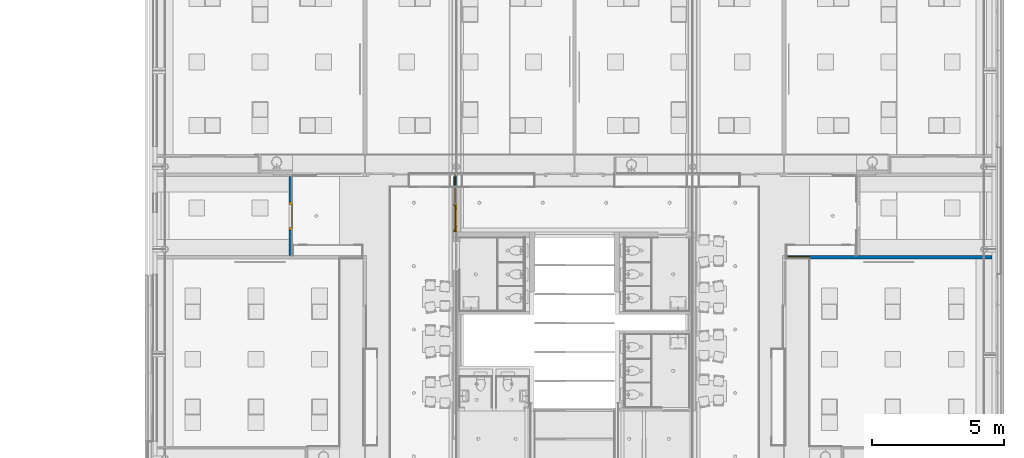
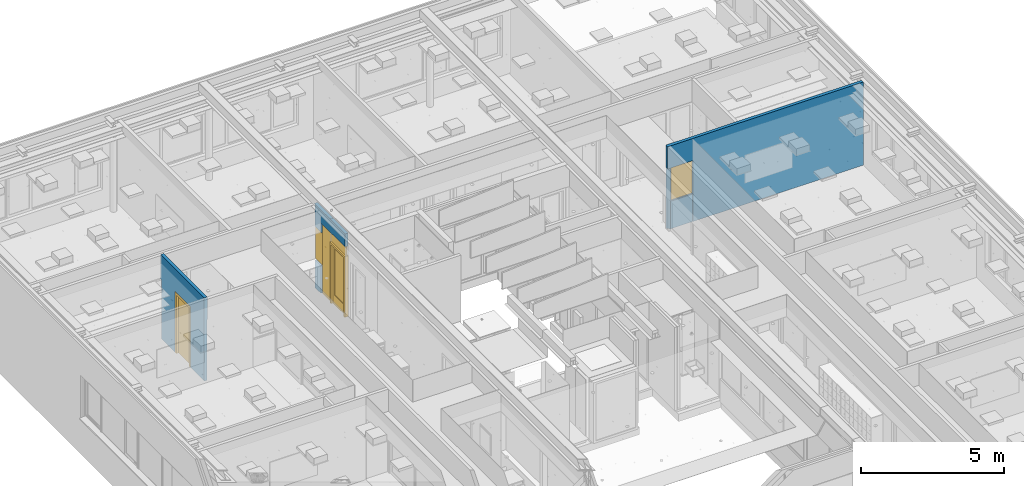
# One storey, part 33 of 260: 4 windows, 3 walls, 2 doors, 6 openings.
"""IFC2X3 building model written with IfcOpenShell, lengths in millimetres."""

from ifc_helpers import new_model, entity, si_unit, converted_unit, derived_unit, money_unit, direction, frame, origin_with_axes, place, context, subcontext, project, spatial, open_shell, faceted_brep, surface_model, source, transform, mapped, material, type_object, type_shapes, element, fill, save


model = new_model("IFC2X3")

# Units and contexts
model_context = context("Model", 3, precision=0.01, world=origin_with_axes(), true_north=direction((0.0, 1.0)))
plan_context = context("Plan", 3, precision=0.01, world=origin_with_axes(), true_north=direction((0.0, 1.0)))
body_context = subcontext(model_context, "Body", "Model", "MODEL_VIEW")
ifc_project = project(units=[si_unit("LENGTHUNIT", "METRE", prefix="MILLI"), si_unit("AREAUNIT", "SQUARE_METRE"), si_unit("VOLUMEUNIT", "CUBIC_METRE"), converted_unit("PLANEANGLEUNIT", "DEGREE", entity("IfcPlaneAngleMeasure", 0.0174532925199), si_unit("PLANEANGLEUNIT", "RADIAN"), dimensions=[0, 0, 0, 0, 0, 0, 0]), money_unit("EUR"), converted_unit("TIMEUNIT", "Year", entity("IfcTimeMeasure", 31556926.0), si_unit("TIMEUNIT", "SECOND"), dimensions=[0, 0, 1, 0, 0, 0, 0]), si_unit("MASSUNIT", "GRAM", prefix="KILO"), si_unit("THERMODYNAMICTEMPERATUREUNIT", "DEGREE_CELSIUS"), si_unit("LUMINOUSINTENSITYUNIT", "LUMEN"), si_unit("ENERGYUNIT", "JOULE", prefix="MEGA"), derived_unit("THERMALCONDUCTANCEUNIT", [(si_unit("POWERUNIT", "WATT"), 1), (si_unit("LENGTHUNIT", "METRE"), -1), (si_unit("THERMODYNAMICTEMPERATUREUNIT", "KELVIN"), -1)]), derived_unit("SPECIFICHEATCAPACITYUNIT", [(si_unit("ENERGYUNIT", "JOULE"), 1), (si_unit("MASSUNIT", "GRAM", prefix="KILO"), -1), (si_unit("THERMODYNAMICTEMPERATUREUNIT", "KELVIN"), -1)]), derived_unit("MASSDENSITYUNIT", [(si_unit("MASSUNIT", "GRAM", prefix="KILO"), 1), (si_unit("VOLUMEUNIT", "CUBIC_METRE"), -1)])], contexts=[model_context, plan_context])

# Site, building, storey
site_placement = place(None, origin_with_axes())
site = spatial("IfcSite", under=ifc_project, at=site_placement, Name="Site", CompositionType="ELEMENT")
building_placement = place(site_placement, origin_with_axes())
building = spatial("IfcBuilding", under=site, at=building_placement, Name="Naam gebouw", CompositionType="ELEMENT")
storey_placement = place(building_placement, frame((0.0, 0.0, 3960.0), z_axis=(0.0, 0.0, 1.0), x_axis=(1.0, 0.0, 0.0)))
storey = spatial("IfcBuildingStorey", under=building, at=storey_placement, Name="verdieping", CompositionType="ELEMENT", Elevation=3960.0)

# Wall, openings, windows, door
ifc_material = material(Name="ALG - LICHTE SCHEIDINGSWAND")
wall_type = type_object("IfcWallType", Name="ALG LSW 125 125", PredefinedType="NOTDEFINED")
wall_1_placement = place(storey_placement, frame((35495.0, 36862.5, 0.0), z_axis=(0.0, 0.0, 1.0), x_axis=(0.0, 1.0, 0.0)))
wall_1 = element("IfcWall", 1, at=wall_1_placement, inside=storey, type_object=wall_type, material=ifc_material, Name="22_GF 125 ECO DGS/2.75.2A", context=body_context, shape_type="Brep", body=[
    faceted_brep([(2100.0, -72.5, 1200.0), (2100.0, -72.5, 1178.0), (2100.0, -125.0, 1178.0), (2100.0, -125.0, 0.0), (2100.0, 0.0, 0.0), (2100.0, 0.0, 1178.0), (2100.0, -52.5, 1178.0), (2100.0, -52.5, 1200.0), (1700.0, -72.5, 1178.0), (1682.0, -72.5, 1200.0), (1682.0, -72.5, 1178.0), (1700.0, -125.0, 1178.0), (1700.0, -125.0, 0.0), (1700.0, 0.0, 0.0), (1700.0, 0.0, 1178.0), (1700.0, -52.5, 1178.0), (1682.0, -52.5, 1178.0), (1682.0, -52.5, 1200.0)], [[[0, 1, 2, 3, 4, 5, 6, 7]], [[8, 1, 0, 9, 10]], [[8, 11, 2, 1]], [[3, 2, 11, 12]], [[3, 12, 13, 4]], [[4, 13, 14, 5]], [[5, 14, 15, 6]], [[15, 16, 17, 7, 6]], [[0, 7, 17, 9]], [[17, 16, 10, 9]], [[8, 10, 16, 15]], [[14, 13, 12, 11, 8, 15]]]),
    faceted_brep([(1700.0, 0.0, 2600.0), (1700.0, -125.0, 2600.0), (1682.0, -125.0, 2600.0), (1682.0, 0.0, 2600.0), (1700.0, 0.0, 2612.0), (1700.0, -125.0, 2612.0), (2100.0, -125.0, 2612.0), (2100.0, -125.0, 3560.00001386), (2162.5, -125.0, 3560.00002563), (2162.5, -125.0, 3570.00005948), (0.0, -125.0, 3570.00005948), (0.0, -125.0, 3012.0), (1700.0, -125.0, 3012.0), (1700.0, -125.0, 3000.0), (1682.0, -125.0, 3000.0), (1682.0, 0.0, 3000.0), (0.0, 0.0, 3012.0), (0.0, 0.0, 3570.00005948), (2162.5, 0.0, 3570.00005948), (2162.5, 0.0, 3560.00002563), (2100.0, 0.0, 3560.00001378), (2100.0, 0.0, 2612.0), (1700.0, 0.0, 3000.0), (1700.0, 0.0, 3012.0), (1050.0, -22.5, 3570.00005948), (1065.0, -22.5, 3570.00005948), (1065.0, -102.5, 3570.00005948), (1050.0, -102.5, 3570.00005948), (1050.0, -22.5, 3012.0), (1050.0, -102.5, 3012.0), (1065.0, -102.5, 3012.0), (1065.0, -22.5, 3012.0)], [[[0, 1, 2, 3]], [[4, 5, 1, 0]], [[5, 6, 7, 8, 9, 10, 11, 12, 13, 14, 2, 1]], [[2, 14, 15, 3]], [[16, 17, 18, 19, 20, 21, 4, 0, 3, 15, 22, 23]], [[4, 21, 6, 5]], [[7, 6, 21, 20]], [[7, 20, 19, 8]], [[18, 9, 8, 19]], [[18, 17, 10, 9], [24, 25, 26, 27]], [[17, 16, 11, 10]], [[23, 12, 11, 16], [28, 29, 30, 31]], [[22, 13, 12, 23]], [[22, 15, 14, 13]], [[25, 24, 28, 31]], [[26, 25, 31, 30]], [[27, 26, 30, 29]], [[24, 27, 29, 28]]]),
])
opening_1_placement = place(wall_1_placement, frame((1373.0, 0.0, 0.0), z_axis=(0.0, 0.0, 1.0), x_axis=(1.0, 0.0, 0.0)))
opening_1 = element("IfcOpeningElement", 2, at=opening_1_placement, cuts=wall_1, Name="31_12.04", context=body_context, shape_type="Brep", body=[
    faceted_brep([(309.0, -72.5, 3000.0), (309.0, -72.5, 0.0), (309.0, 125.0, 0.0), (309.0, 125.0, 3000.0), (-309.0, -72.5, 3000.0), (-309.0, -72.5, 0.0), (-309.0, 125.0, 0.0), (-309.0, 125.0, 3000.0)], [[[0, 1, 2, 3]], [[0, 4, 5, 1]], [[1, 5, 6, 2]], [[3, 2, 6, 7]], [[4, 0, 3, 7]], [[5, 4, 7, 6]]]),
    faceted_brep([(309.0, -72.5, 0.0), (309.0, -72.5, 3000.0), (309.0, -250.0, 3000.0), (309.0, -250.0, 0.0), (-309.0, -72.5, 0.0), (-309.0, -72.5, 3000.0), (-309.0, -250.0, 3000.0), (-309.0, -250.0, 0.0)], [[[0, 1, 2, 3]], [[0, 4, 5, 1]], [[1, 5, 6, 2]], [[3, 2, 6, 7]], [[4, 0, 3, 7]], [[5, 4, 7, 6]]]),
])
opening_2_placement = place(wall_1_placement, frame((1917.25, 0.0, 1200.0), z_axis=(0.0, 0.0, 1.0), x_axis=(1.0, 0.0, 0.0)))
opening_2 = element("IfcOpeningElement", 3, at=opening_2_placement, cuts=wall_1, Name="31_11.12", context=body_context, shape_type="Brep", body=[
    faceted_brep([(235.25, -72.5, 1400.0), (235.25, -72.5, 0.0), (235.25, 125.0, 0.0), (235.25, 125.0, 1400.0), (-235.25, -72.5, 1400.0), (-235.25, -72.5, 0.0), (-235.25, 125.0, 0.0), (-235.25, 125.0, 1400.0)], [[[0, 1, 2, 3]], [[0, 4, 5, 1]], [[1, 5, 6, 2]], [[3, 2, 6, 7]], [[4, 0, 3, 7]], [[5, 4, 7, 6]]]),
    faceted_brep([(235.25, -72.5, 0.0), (235.25, -72.5, 1400.0), (235.25, -250.0, 1400.0), (235.25, -250.0, 0.0), (-235.25, -72.5, 0.0), (-235.25, -72.5, 1400.0), (-235.25, -250.0, 1400.0), (-235.25, -250.0, 0.0)], [[[0, 1, 2, 3]], [[0, 4, 5, 1]], [[1, 5, 6, 2]], [[3, 2, 6, 7]], [[4, 0, 3, 7]], [[5, 4, 7, 6]]]),
])
opening_3_placement = place(wall_1_placement, frame((532.0, 0.0, 2600.0), z_axis=(0.0, 0.0, 1.0), x_axis=(1.0, 0.0, 0.0)))
opening_3 = element("IfcOpeningElement", 4, at=opening_3_placement, cuts=wall_1, Name="31_12.03", context=body_context, shape_type="Brep", body=[
    faceted_brep([(532.0, -72.5, 400.0), (532.0, -72.5, 0.0), (532.0, 125.0, 0.0), (532.0, 125.0, 400.0), (-532.0, -72.5, 400.0), (-532.0, -72.5, 0.0), (-532.0, 125.0, 0.0), (-532.0, 125.0, 400.0)], [[[0, 1, 2, 3]], [[0, 4, 5, 1]], [[1, 5, 6, 2]], [[3, 2, 6, 7]], [[4, 0, 3, 7]], [[5, 4, 7, 6]]]),
    faceted_brep([(532.0, -72.5, 0.0), (532.0, -72.5, 400.0), (532.0, -250.0, 400.0), (532.0, -250.0, 0.0), (-532.0, -72.5, 0.0), (-532.0, -72.5, 400.0), (-532.0, -250.0, 400.0), (-532.0, -250.0, 0.0)], [[[0, 1, 2, 3]], [[0, 4, 5, 1]], [[1, 5, 6, 2]], [[3, 2, 6, 7]], [[4, 0, 3, 7]], [[5, 4, 7, 6]]]),
])
opening_4_placement = place(wall_1_placement, frame((532.0, 0.0, 0.0), z_axis=(0.0, 0.0, 1.0), x_axis=(1.0, 0.0, 0.0)))
opening_4 = element("IfcOpeningElement", 5, at=opening_4_placement, cuts=wall_1, Name="32_02.01", context=body_context, shape_type="Brep", body=[
    faceted_brep([(-532.0, -125.0, 0.0), (-532.0, -125.0, 2600.0), (-532.0, 257.0, 2600.0), (-532.0, 257.0, 0.0), (532.0, -125.0, 0.0), (532.0, -125.0, 2600.0), (532.0, 257.0, 2600.0), (532.0, 257.0, 0.0)], [[[0, 1, 2, 3]], [[0, 4, 5, 1]], [[1, 5, 6, 2]], [[3, 2, 6, 7]], [[4, 0, 3, 7]], [[5, 4, 7, 6]]]),
])
window_style = type_object("IfcWindowStyle", Name="R1 25", ConstructionType="NOTDEFINED", OperationType="SINGLE_PANEL", ParameterTakesPrecedence=False, Sizeable=False)
window_1_placement = place(opening_1_placement, frame((309.0, 0.0, 0.0), z_axis=(0.0, 0.0, 1.0), x_axis=(-1.0, 0.0, 0.0)))
window_1 = element("IfcWindow", 6, at=window_1_placement, inside=storey, type_object=window_style, Name="31_12.04", ObjectType="WINDOW", OverallHeight=3000.0, OverallWidth=618.0, context=body_context, shape_type="SurfaceModel", body=[
    faceted_brep([(598.0, 52.5, 2980.0), (618.0, 52.5, 2980.0), (618.0, 72.5, 2980.0), (598.0, 72.5, 2980.0), (598.0, 52.5, 20.0), (618.0, 52.5, 20.0), (618.0, 72.5, 20.0), (598.0, 72.5, 20.0)], [[[0, 1, 2, 3]], [[0, 4, 5, 1]], [[1, 5, 6, 2]], [[3, 2, 6, 7]], [[4, 0, 3, 7]], [[5, 4, 7, 6]]]),
    faceted_brep([(20.0, 52.5, 20.0), (0.0, 52.5, 20.0), (0.0, 72.5, 20.0), (20.0, 72.5, 20.0), (20.0, 52.5, 2980.0), (0.0, 52.5, 2980.0), (0.0, 72.5, 2980.0), (20.0, 72.5, 2980.0)], [[[0, 1, 2, 3]], [[0, 4, 5, 1]], [[1, 5, 6, 2]], [[3, 2, 6, 7]], [[4, 0, 3, 7]], [[5, 4, 7, 6]]]),
    faceted_brep([(598.0, 52.5, 20.0), (618.0, 52.5, 20.0), (618.0, 72.5, 20.0), (598.0, 72.5, 20.0), (20.0, 52.5, 20.0), (0.0, 52.5, 20.0), (0.0, 52.5, 0.0), (618.0, 52.5, 0.0), (618.0, 72.5, 0.0), (0.0, 72.5, 0.0), (0.0, 72.5, 20.0), (20.0, 72.5, 20.0)], [[[0, 1, 2, 3]], [[0, 4, 5, 6, 7, 1]], [[1, 7, 8, 2]], [[3, 2, 8, 9, 10, 11]], [[4, 0, 3, 11]], [[5, 4, 11, 10]], [[6, 5, 10, 9]], [[7, 6, 9, 8]]]),
    faceted_brep([(20.0, 52.5, 2980.0), (0.0, 52.5, 2980.0), (0.0, 72.5, 2980.0), (20.0, 72.5, 2980.0), (598.0, 52.5, 2980.0), (618.0, 52.5, 2980.0), (618.0, 52.5, 3000.0), (0.0, 52.5, 3000.0), (0.0, 72.5, 3000.0), (618.0, 72.5, 3000.0), (618.0, 72.5, 2980.0), (598.0, 72.5, 2980.0)], [[[0, 1, 2, 3]], [[0, 4, 5, 6, 7, 1]], [[1, 7, 8, 2]], [[3, 2, 8, 9, 10, 11]], [[4, 0, 3, 11]], [[5, 4, 11, 10]], [[6, 5, 10, 9]], [[7, 6, 9, 8]]]),
    surface_model("IfcShellBasedSurfaceModel", [(598.0, 52.5, 20.0), (598.0, 52.5, 2980.0), (20.0, 52.5, 2980.0), (20.0, 52.5, 20.0)], [open_shell([[[0, 1, 2, 3]]])]),
    surface_model("IfcShellBasedSurfaceModel", [(598.0, 72.5, 20.0), (20.0, 72.5, 20.0), (20.0, 72.5, 2980.0), (598.0, 72.5, 2980.0)], [open_shell([[[0, 1, 2, 3]]])]),
])
fill(opening_1, window_1)
window_2_placement = place(opening_2_placement, frame((235.25, 0.0, 0.0), z_axis=(0.0, 0.0, 1.0), x_axis=(-1.0, 0.0, 0.0)))
window_2 = element("IfcWindow", 7, at=window_2_placement, inside=storey, type_object=window_style, Name="31_11.12", ObjectType="WINDOW", OverallHeight=1400.0, OverallWidth=470.5, context=body_context, shape_type="SurfaceModel", body=[
    faceted_brep([(450.5, 52.5, 1380.0), (470.5, 52.5, 1380.0), (470.5, 72.5, 1380.0), (450.5, 72.5, 1380.0), (450.5, 52.5, 20.0), (470.5, 52.5, 20.0), (470.5, 72.5, 20.0), (450.5, 72.5, 20.0)], [[[0, 1, 2, 3]], [[0, 4, 5, 1]], [[1, 5, 6, 2]], [[3, 2, 6, 7]], [[4, 0, 3, 7]], [[5, 4, 7, 6]]]),
    faceted_brep([(20.0, 52.5, 20.0), (0.0, 52.5, 20.0), (0.0, 72.5, 20.0), (20.0, 72.5, 20.0), (20.0, 52.5, 1380.0), (0.0, 52.5, 1380.0), (0.0, 72.5, 1380.0), (20.0, 72.5, 1380.0)], [[[0, 1, 2, 3]], [[0, 4, 5, 1]], [[1, 5, 6, 2]], [[3, 2, 6, 7]], [[4, 0, 3, 7]], [[5, 4, 7, 6]]]),
    faceted_brep([(450.5, 52.5, 20.0), (470.5, 52.5, 20.0), (470.5, 72.5, 20.0), (450.5, 72.5, 20.0), (20.0, 52.5, 20.0), (0.0, 52.5, 20.0), (0.0, 52.5, 0.0), (470.5, 52.5, 0.0), (470.5, 72.5, 0.0), (0.0, 72.5, 0.0), (0.0, 72.5, 20.0), (20.0, 72.5, 20.0)], [[[0, 1, 2, 3]], [[0, 4, 5, 6, 7, 1]], [[1, 7, 8, 2]], [[3, 2, 8, 9, 10, 11]], [[4, 0, 3, 11]], [[5, 4, 11, 10]], [[6, 5, 10, 9]], [[7, 6, 9, 8]]]),
    faceted_brep([(20.0, 52.5, 1380.0), (0.0, 52.5, 1380.0), (0.0, 72.5, 1380.0), (20.0, 72.5, 1380.0), (450.5, 52.5, 1380.0), (470.5, 52.5, 1380.0), (470.5, 52.5, 1400.0), (0.0, 52.5, 1400.0), (0.0, 72.5, 1400.0), (470.5, 72.5, 1400.0), (470.5, 72.5, 1380.0), (450.5, 72.5, 1380.0)], [[[0, 1, 2, 3]], [[0, 4, 5, 6, 7, 1]], [[1, 7, 8, 2]], [[3, 2, 8, 9, 10, 11]], [[4, 0, 3, 11]], [[5, 4, 11, 10]], [[6, 5, 10, 9]], [[7, 6, 9, 8]]]),
    surface_model("IfcShellBasedSurfaceModel", [(450.5, 52.5, 20.0), (450.5, 52.5, 1380.0), (20.0, 52.5, 1380.0), (20.0, 52.5, 20.0)], [open_shell([[[0, 1, 2, 3]]])]),
    surface_model("IfcShellBasedSurfaceModel", [(450.5, 72.5, 20.0), (20.0, 72.5, 20.0), (20.0, 72.5, 1380.0), (450.5, 72.5, 1380.0)], [open_shell([[[0, 1, 2, 3]]])]),
])
fill(opening_2, window_2)
window_3_placement = place(opening_3_placement, frame((532.0, 0.0, 0.0), z_axis=(0.0, 0.0, 1.0), x_axis=(-1.0, 0.0, 0.0)))
window_3 = element("IfcWindow", 8, at=window_3_placement, inside=storey, type_object=window_style, Name="31_12.03", ObjectType="WINDOW", OverallHeight=400.0, OverallWidth=1064.0, context=body_context, shape_type="SurfaceModel", body=[
    faceted_brep([(1044.0, 52.5, 380.0), (1064.0, 52.5, 380.0), (1064.0, 72.5, 380.0), (1044.0, 72.5, 380.0), (1044.0, 52.5, 20.0), (1064.0, 52.5, 20.0), (1064.0, 72.5, 20.0), (1044.0, 72.5, 20.0)], [[[0, 1, 2, 3]], [[0, 4, 5, 1]], [[1, 5, 6, 2]], [[3, 2, 6, 7]], [[4, 0, 3, 7]], [[5, 4, 7, 6]]]),
    faceted_brep([(20.0, 52.5, 20.0), (0.0, 52.5, 20.0), (0.0, 72.5, 20.0), (20.0, 72.5, 20.0), (20.0, 52.5, 380.0), (0.0, 52.5, 380.0), (0.0, 72.5, 380.0), (20.0, 72.5, 380.0)], [[[0, 1, 2, 3]], [[0, 4, 5, 1]], [[1, 5, 6, 2]], [[3, 2, 6, 7]], [[4, 0, 3, 7]], [[5, 4, 7, 6]]]),
    faceted_brep([(1044.0, 52.5, 20.0), (1064.0, 52.5, 20.0), (1064.0, 72.5, 20.0), (1044.0, 72.5, 20.0), (20.0, 52.5, 20.0), (0.0, 52.5, 20.0), (0.0, 52.5, 0.0), (1064.0, 52.5, 0.0), (1064.0, 72.5, 0.0), (0.0, 72.5, 0.0), (0.0, 72.5, 20.0), (20.0, 72.5, 20.0)], [[[0, 1, 2, 3]], [[0, 4, 5, 6, 7, 1]], [[1, 7, 8, 2]], [[3, 2, 8, 9, 10, 11]], [[4, 0, 3, 11]], [[5, 4, 11, 10]], [[6, 5, 10, 9]], [[7, 6, 9, 8]]]),
    faceted_brep([(20.0, 52.5, 380.0), (0.0, 52.5, 380.0), (0.0, 72.5, 380.0), (20.0, 72.5, 380.0), (1044.0, 52.5, 380.0), (1064.0, 52.5, 380.0), (1064.0, 52.5, 400.0), (0.0, 52.5, 400.0), (0.0, 72.5, 400.0), (1064.0, 72.5, 400.0), (1064.0, 72.5, 380.0), (1044.0, 72.5, 380.0)], [[[0, 1, 2, 3]], [[0, 4, 5, 6, 7, 1]], [[1, 7, 8, 2]], [[3, 2, 8, 9, 10, 11]], [[4, 0, 3, 11]], [[5, 4, 11, 10]], [[6, 5, 10, 9]], [[7, 6, 9, 8]]]),
    surface_model("IfcShellBasedSurfaceModel", [(1044.0, 52.5, 20.0), (1044.0, 52.5, 380.0), (20.0, 52.5, 380.0), (20.0, 52.5, 20.0)], [open_shell([[[0, 1, 2, 3]]])]),
    surface_model("IfcShellBasedSurfaceModel", [(1044.0, 72.5, 20.0), (20.0, 72.5, 20.0), (20.0, 72.5, 380.0), (1044.0, 72.5, 380.0)], [open_shell([[[0, 1, 2, 3]]])]),
])
fill(opening_3, window_3)
door_style_1 = type_object("IfcDoorStyle", Name="D1 25", ConstructionType="NOTDEFINED", OperationType="SINGLE_SWING_RIGHT", ParameterTakesPrecedence=False, Sizeable=False)
shared_shape_1 = source(origin_with_axes(), body_context, "Body", "SurfaceModel", [
    faceted_brep([(-442.0, -60.0, 0.0), (-442.0, -60.0, 2510.0), (-442.0, -139.0, 2510.0), (-442.0, -139.0, 0.0), (-467.0, -60.0, 2510.0), (-467.0, -60.0, 0.0), (-467.0, 0.0, 2510.0), (-532.0, 0.0, 2510.0), (-532.0, -139.0, 2510.0), (-532.0, -139.0, 0.0), (-532.0, 0.0, 0.0), (-467.0, 0.0, 0.0)], [[[0, 1, 2, 3]], [[4, 1, 0, 5]], [[4, 6, 7, 8, 2, 1]], [[3, 2, 8, 9]], [[5, 0, 3, 9, 10, 11]], [[6, 4, 5, 11]], [[6, 11, 10, 7]], [[10, 9, 8, 7]]]),
    faceted_brep([(467.0, -60.0, 2510.0), (442.0, -60.0, 2510.0), (442.0, -139.0, 2510.0), (532.0, -139.0, 2510.0), (532.0, 0.0, 2510.0), (467.0, 0.0, 2510.0), (467.0, -60.0, 0.0), (442.0, -60.0, 0.0), (442.0, -139.0, 0.0), (532.0, -139.0, 0.0), (532.0, 0.0, 0.0), (467.0, 0.0, 0.0)], [[[0, 1, 2, 3, 4, 5]], [[1, 0, 6, 7]], [[1, 7, 8, 2]], [[3, 2, 8, 9]], [[4, 3, 9, 10]], [[11, 5, 4, 10]], [[0, 5, 11, 6]], [[6, 11, 10, 9, 8, 7]]]),
    faceted_brep([(-467.0, 0.0, 2535.0), (-467.0, 0.0, 2510.0), (-532.0, 0.0, 2510.0), (-532.0, 0.0, 2600.0), (532.0, 0.0, 2600.0), (532.0, 0.0, 2510.0), (467.0, 0.0, 2510.0), (467.0, 0.0, 2535.0), (-467.0, -60.0, 2535.0), (-467.0, -60.0, 2510.0), (-442.0, -60.0, 2510.0), (-442.0, -139.0, 2510.0), (-532.0, -139.0, 2510.0), (-532.0, -139.0, 2600.0), (532.0, -139.0, 2600.0), (532.0, -139.0, 2510.0), (467.0, -60.0, 2510.0), (442.0, -139.0, 2510.0), (442.0, -60.0, 2510.0), (467.0, -60.0, 2535.0)], [[[0, 1, 2, 3, 4, 5, 6, 7]], [[1, 0, 8, 9]], [[9, 10, 11, 12, 2, 1]], [[2, 12, 13, 3]], [[3, 13, 14, 4]], [[4, 14, 15, 5]], [[16, 6, 5, 15, 17, 18]], [[7, 6, 16, 19]], [[0, 7, 19, 8]], [[16, 18, 10, 9, 8, 19]], [[10, 18, 17, 11]], [[17, 15, 14, 13, 12, 11]]]),
    faceted_brep([(467.0, -6.0, 400.0), (467.0, -60.0, 400.0), (327.0, -60.0, 400.0), (327.0, -6.0, 400.0), (467.0, -6.0, 2395.0), (467.0, -60.0, 2395.0), (327.0, -60.0, 2395.0), (327.0, -6.0, 2395.0)], [[[0, 1, 2, 3]], [[4, 5, 1, 0]], [[1, 5, 6, 2]], [[3, 2, 6, 7]], [[0, 3, 7, 4]], [[7, 6, 5, 4]]]),
    faceted_brep([(-467.0, -6.0, 400.0), (-467.0, -60.0, 400.0), (-467.0, -60.0, 2395.0), (-467.0, -6.0, 2395.0), (-327.0, -6.0, 400.0), (-327.0, -60.0, 400.0), (-327.0, -60.0, 2395.0), (-327.0, -6.0, 2395.0)], [[[0, 1, 2, 3]], [[4, 5, 1, 0]], [[1, 5, 6, 2]], [[3, 2, 6, 7]], [[0, 3, 7, 4]], [[7, 6, 5, 4]]]),
    faceted_brep([(467.0, -6.0, 0.0), (467.0, -60.0, 0.0), (-467.0, -60.0, 0.0), (-467.0, -6.0, 0.0), (467.0, -6.0, 400.0), (467.0, -60.0, 400.0), (327.0, -60.0, 400.0), (-327.0, -60.0, 400.0), (-467.0, -60.0, 400.0), (-467.0, -6.0, 400.0), (-327.0, -6.0, 400.0), (327.0, -6.0, 400.0)], [[[0, 1, 2, 3]], [[4, 5, 1, 0]], [[1, 5, 6, 7, 8, 2]], [[3, 2, 8, 9]], [[0, 3, 9, 10, 11, 4]], [[11, 6, 5, 4]], [[10, 7, 6, 11]], [[9, 8, 7, 10]]]),
    faceted_brep([(467.0, -6.0, 2535.0), (467.0, -60.0, 2535.0), (467.0, -60.0, 2395.0), (467.0, -6.0, 2395.0), (-467.0, -6.0, 2535.0), (-467.0, -60.0, 2535.0), (-467.0, -60.0, 2395.0), (-327.0, -60.0, 2395.0), (327.0, -60.0, 2395.0), (327.0, -6.0, 2395.0), (-327.0, -6.0, 2395.0), (-467.0, -6.0, 2395.0)], [[[0, 1, 2, 3]], [[4, 5, 1, 0]], [[1, 5, 6, 7, 8, 2]], [[3, 2, 8, 9]], [[0, 3, 9, 10, 11, 4]], [[11, 6, 5, 4]], [[10, 7, 6, 11]], [[9, 8, 7, 10]]]),
    surface_model("IfcShellBasedSurfaceModel", [(327.0, -27.0, 400.0), (-327.0, -27.0, 400.0), (-327.0, -27.0, 2395.0), (327.0, -27.0, 2395.0)], [open_shell([[[0, 1, 2, 3]]])]),
    surface_model("IfcShellBasedSurfaceModel", [(327.0, -39.0, 400.0), (327.0, -39.0, 2395.0), (-327.0, -39.0, 2395.0), (-327.0, -39.0, 400.0)], [open_shell([[[0, 1, 2, 3]]])]),
])
type_shapes(door_style_1, [shared_shape_1])
door_1_placement = place(opening_4_placement, frame((532.0, 0.0, 0.0), z_axis=(0.0, 0.0, 1.0), x_axis=(-1.0, 0.0, 0.0)))
door_1 = element("IfcDoor", 9, at=door_1_placement, inside=storey, type_object=door_style_1, Name="32_02.01", ObjectType="DOOR", OverallHeight=2600.0, OverallWidth=1064.0, context=body_context, shape_type="MappedRepresentation", body=[
    mapped(shared_shape_1, transform((532.0, 132.0, 0.0))),
])
fill(opening_4, door_1)

# Wall, opening, window
wall_2_placement = place(storey_placement, frame((55875.0, 35900.0, 0.0), z_axis=(0.0, 0.0, 1.0), x_axis=(-1.0, 0.0, 0.0)))
wall_2 = element("IfcWall", 10, at=wall_2_placement, inside=storey, type_object=wall_type, material=ifc_material, Name="22_GF 125 ECO DGS/2.75.2A", context=body_context, shape_type="Brep", body=[
    faceted_brep([(7925.0, -62.5, 2600.0), (7800.0, 62.5, 2600.0), (7793.0, 62.5, 2600.0), (7793.0, -62.5, 2600.0), (7925.0, -62.5, 0.0), (7800.0, 62.5, 0.0), (7793.0, 62.5, 0.0), (7793.0, 62.5000194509, 1200.0), (7793.0, 10.0, 1200.0), (7793.0, -6.50000437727, 1200.0), (7793.0, -62.5, 1200.0), (7793.0, -62.5, 0.0), (7793.0, -6.50001416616, 0.0), (7771.0, -6.50001416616, 0.0), (7771.0, -62.5, 0.0), (-3.02161211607e-05, -62.5, 0.0), (-3.02161211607e-05, 62.5, 0.0), (6900.0, 62.5, 0.0), (6900.0, 50.5, 0.0), (7793.0, 50.5, 0.0), (7793.0, 10.0, 1175.0), (7793.0, 50.5, 1175.0), (6900.0, 10.0, 1200.0), (6900.0, -6.50000437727, 1200.0), (6900.00002007, -6.50000437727, 1178.0), (7771.0, -6.50001416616, 1178.0), (7771.0, -62.5, 1178.0), (6900.00002007, -62.5, 1178.0), (6900.0, -62.5, 1200.0), (6900.0, -62.5, 2600.0), (6900.0, -62.5, 2612.0), (7925.0, -62.5, 2612.0), (7925.0, -62.5, 3560.0000003), (-3.02161211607e-05, -62.5, 3560.00002846), (-3.02161211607e-05, 62.5, 3560.00002846), (6900.0, 62.5, 2612.0), (6900.0, 62.5, 2600.0), (6900.0, 62.5000194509, 1200.0), (7925.0, 62.5, 3560.0000003), (7925.0, 62.5, 2612.0), (6900.00001931, 10.0, 1175.0), (6900.0, 50.5, 1175.0)], [[[0, 1, 2, 3]], [[1, 0, 4, 5]], [[1, 5, 6, 7, 2]], [[3, 2, 7, 8, 9, 10]], [[4, 0, 3, 10, 11]], [[5, 4, 11, 12, 13, 14, 15, 16, 17, 18, 19, 6]], [[20, 8, 7, 6, 19, 21]], [[22, 23, 9, 8]], [[10, 9, 12, 11]], [[12, 9, 23, 24, 25, 13]], [[25, 26, 14, 13]], [[15, 14, 26, 27, 28, 29, 30, 31, 32, 33]], [[16, 15, 33, 34]], [[35, 36, 37, 17, 16, 34, 38, 39]], [[17, 37, 22, 40, 41, 18]], [[41, 21, 19, 18]], [[40, 22, 8, 20]], [[21, 41, 40, 20]], [[28, 23, 22, 37, 36, 29]], [[24, 23, 28, 27]], [[26, 25, 24, 27]], [[29, 36, 35, 30]], [[31, 30, 35, 39]], [[31, 39, 38, 32]], [[38, 34, 33, 32]]]),
])
opening_5_placement = place(wall_2_placement, frame((7346.5, 0.0, 1200.0), z_axis=(0.0, 0.0, 1.0), x_axis=(1.0, 0.0, 0.0)))
opening_5 = element("IfcOpeningElement", 11, at=opening_5_placement, cuts=wall_2, Name="31_11.02", context=body_context, shape_type="Brep", body=[
    faceted_brep([(-446.5, 187.5, 1400.0), (-446.5, 187.5, 0.0), (-446.5, -10.0, 0.0), (-446.5, -10.0, 1400.0), (446.5, 187.5, 1400.0), (446.5, 187.5, 0.0), (446.5, -10.0, 0.0), (446.5, -10.0, 1400.0)], [[[0, 1, 2, 3]], [[0, 4, 5, 1]], [[1, 5, 6, 2]], [[3, 2, 6, 7]], [[4, 0, 3, 7]], [[5, 4, 7, 6]]]),
    faceted_brep([(-446.5, -187.5, 0.0), (-446.5, -187.5, 1400.0), (-446.5, -10.0, 1400.0), (-446.5, -10.0, 0.0), (446.5, -187.5, 0.0), (446.5, -187.5, 1400.0), (446.5, -10.0, 1400.0), (446.5, -10.0, 0.0)], [[[0, 1, 2, 3]], [[0, 4, 5, 1]], [[1, 5, 6, 2]], [[3, 2, 6, 7]], [[4, 0, 3, 7]], [[5, 4, 7, 6]]]),
])
shared_shape_2 = source(origin_with_axes(), body_context, "Body", "SurfaceModel", [
    faceted_brep([(-426.5, -20.0, 1380.0), (-426.5, 0.0, 1380.0), (-446.5, 0.0, 1380.0), (-446.5, -20.0, 1380.0), (-426.5, -20.0, 20.0), (-426.5, 0.0, 20.0), (-446.5, 0.0, 20.0), (-446.5, -20.0, 20.0)], [[[0, 1, 2, 3]], [[4, 5, 1, 0]], [[1, 5, 6, 2]], [[3, 2, 6, 7]], [[0, 3, 7, 4]], [[7, 6, 5, 4]]]),
    faceted_brep([(426.5, -20.0, 20.0), (426.5, 0.0, 20.0), (446.5, 0.0, 20.0), (446.5, -20.0, 20.0), (426.5, -20.0, 1380.0), (426.5, 0.0, 1380.0), (446.5, 0.0, 1380.0), (446.5, -20.0, 1380.0)], [[[0, 1, 2, 3]], [[4, 5, 1, 0]], [[1, 5, 6, 2]], [[3, 2, 6, 7]], [[0, 3, 7, 4]], [[7, 6, 5, 4]]]),
    faceted_brep([(-426.5, -20.0, 20.0), (-426.5, 0.0, 20.0), (-446.5, 0.0, 20.0), (-446.5, -20.0, 20.0), (426.5, -20.0, 20.0), (426.5, 0.0, 20.0), (446.5, 0.0, 20.0), (446.5, 0.0, 0.0), (-446.5, 0.0, 0.0), (-446.5, -20.0, 0.0), (446.5, -20.0, 0.0), (446.5, -20.0, 20.0)], [[[0, 1, 2, 3]], [[4, 5, 1, 0]], [[1, 5, 6, 7, 8, 2]], [[3, 2, 8, 9]], [[0, 3, 9, 10, 11, 4]], [[11, 6, 5, 4]], [[10, 7, 6, 11]], [[9, 8, 7, 10]]]),
    faceted_brep([(426.5, -20.0, 1380.0), (426.5, 0.0, 1380.0), (446.5, 0.0, 1380.0), (446.5, -20.0, 1380.0), (-426.5, -20.0, 1380.0), (-426.5, 0.0, 1380.0), (-446.5, 0.0, 1380.0), (-446.5, 0.0, 1400.0), (446.5, 0.0, 1400.0), (446.5, -20.0, 1400.0), (-446.5, -20.0, 1400.0), (-446.5, -20.0, 1380.0)], [[[0, 1, 2, 3]], [[4, 5, 1, 0]], [[1, 5, 6, 7, 8, 2]], [[3, 2, 8, 9]], [[0, 3, 9, 10, 11, 4]], [[11, 6, 5, 4]], [[10, 7, 6, 11]], [[9, 8, 7, 10]]]),
    surface_model("IfcShellBasedSurfaceModel", [(-426.5, -20.0, 20.0), (426.5, -20.0, 20.0), (426.5, -20.0, 1380.0), (-426.5, -20.0, 1380.0)], [open_shell([[[0, 1, 2, 3]]])]),
    surface_model("IfcShellBasedSurfaceModel", [(-426.5, 0.0, 20.0), (-426.5, 0.0, 1380.0), (426.5, 0.0, 1380.0), (426.5, 0.0, 20.0)], [open_shell([[[0, 1, 2, 3]]])]),
])
type_shapes(window_style, [shared_shape_2])
window_4_placement = place(opening_5_placement, frame((446.5, 0.0, 0.0), z_axis=(0.0, 0.0, 1.0), x_axis=(-1.0, 0.0, 0.0)))
window_4 = element("IfcWindow", 12, at=window_4_placement, inside=storey, type_object=window_style, Name="31_11.02", ObjectType="WINDOW", OverallHeight=1400.0, OverallWidth=893.0, context=body_context, shape_type="MappedRepresentation", body=[
    mapped(shared_shape_2, transform((446.5, 10.0, 0.0))),
])
fill(opening_5, window_4)

# Wall, opening, door
wall_3_placement = place(storey_placement, frame((29400.0, 39022.5, 0.0), z_axis=(0.0, 0.0, 1.0), x_axis=(0.0, -1.0, 0.0)))
wall_3 = element("IfcWall", 13, at=wall_3_placement, inside=storey, type_object=wall_type, material=ifc_material, Name="22_GF 125 ECO DGS/2.75.2A", context=body_context, shape_type="Brep", body=[
    faceted_brep([(2091.99998207, 0.0, 2600.0), (1027.99998207, 0.0, 2600.0), (60.0, 0.0, 2600.0), (60.0, 0.0, 2510.0), (0.0, 0.0, 2510.0), (0.0, 0.0, 3560.0), (3060.0, 0.0, 3560.0), (3060.0, 0.0, 2600.0), (1027.99998207, -12.5, 2600.0), (2091.99998207, -12.0, 2600.0), (2091.99998207, -125.0, 2600.0), (1027.99998207, -125.0, 2600.0), (60.0, -12.5, 2600.0), (60.0, -12.5, 2510.0), (60.0, -125.0, 2510.0), (0.0, -125.0, 2510.0), (0.0, -125.0, 3560.0), (3060.0, -125.0, 3560.0), (3060.0, -125.0, 0.0), (3060.0, -12.0, 0.0), (3060.0, -12.0, 2600.0), (2091.99998207, -12.0, 0.0), (2091.99998207, -125.0, 0.0), (60.0, -125.0, 0.0), (1027.99998207, -125.0, 0.0), (1027.99998207, -12.5, 0.0), (60.0, -12.5, 0.0)], [[[0, 1, 2, 3, 4, 5, 6, 7]], [[8, 1, 0, 9, 10, 11]], [[1, 8, 12, 2]], [[3, 2, 12, 13]], [[13, 14, 15, 4, 3]], [[5, 4, 15, 16]], [[17, 6, 5, 16]], [[6, 17, 18, 19, 20, 7]], [[9, 0, 7, 20]], [[9, 21, 22, 10]], [[10, 22, 18, 17, 16, 15, 14, 23, 24, 11]], [[25, 8, 11, 24]], [[8, 25, 26, 13, 12]], [[13, 26, 23, 14]], [[22, 21, 19, 18]], [[21, 9, 20, 19]], [[25, 24, 23, 26]]]),
])
opening_6_placement = place(wall_3_placement, frame((1559.99998207, 0.0, 0.0), z_axis=(0.0, 0.0, 1.0), x_axis=(1.0, 0.0, 0.0)))
opening_6 = element("IfcOpeningElement", 14, at=opening_6_placement, cuts=wall_3, Name="32_01.03", context=body_context, shape_type="Brep", body=[
    faceted_brep([(-532.0, 257.0, 2600.0), (-532.0, 257.0, 0.0), (-532.0, -125.0, 0.0), (-532.0, -125.0, 2600.0), (532.0, 257.0, 2600.0), (532.0, 257.0, 0.0), (532.0, -125.0, 0.0), (532.0, -125.0, 2600.0)], [[[0, 1, 2, 3]], [[0, 4, 5, 1]], [[1, 5, 6, 2]], [[3, 2, 6, 7]], [[4, 0, 3, 7]], [[5, 4, 7, 6]]]),
])
door_style_2 = type_object("IfcDoorStyle", Name="D1 25", ConstructionType="NOTDEFINED", OperationType="SINGLE_SWING_LEFT", ParameterTakesPrecedence=False, Sizeable=False)
shared_shape_3 = source(origin_with_axes(), body_context, "Body", "Brep", [
    faceted_brep([(442.0, -50.0, 0.0), (442.0, -139.0, 0.0), (442.0, -139.0, 2510.0), (442.0, -50.0, 2510.0), (467.0, -50.0, 0.0), (467.0, 0.0, 0.0), (532.0, 0.0, 0.0), (532.0, -139.0, 0.0), (532.0, -139.0, 2510.0), (467.0, -50.0, 2510.0), (532.0, 0.0, 2510.0), (467.0, 0.0, 2510.0)], [[[0, 1, 2, 3]], [[4, 5, 6, 7, 1, 0]], [[1, 7, 8, 2]], [[9, 3, 2, 8, 10, 11]], [[9, 4, 0, 3]], [[11, 5, 4, 9]], [[11, 10, 6, 5]], [[6, 10, 8, 7]]]),
    faceted_brep([(-467.0, -50.0, 2510.0), (-467.0, 0.0, 2510.0), (-532.0, 0.0, 2510.0), (-532.0, -139.0, 2510.0), (-442.0, -139.0, 2510.0), (-442.0, -50.0, 2510.0), (-467.0, -50.0, 0.0), (-467.0, 0.0, 0.0), (-532.0, 0.0, 0.0), (-532.0, -139.0, 0.0), (-442.0, -139.0, 0.0), (-442.0, -50.0, 0.0)], [[[0, 1, 2, 3, 4, 5]], [[0, 6, 7, 1]], [[7, 8, 2, 1]], [[2, 8, 9, 3]], [[3, 9, 10, 4]], [[5, 4, 10, 11]], [[5, 11, 6, 0]], [[6, 11, 10, 9, 8, 7]]]),
    faceted_brep([(467.0, 0.0, 2535.0), (-467.0, 0.0, 2535.0), (-467.0, 0.0, 2510.0), (-532.0, 0.0, 2510.0), (-532.0, 0.0, 2600.0), (532.0, 0.0, 2600.0), (532.0, 0.0, 2510.0), (467.0, 0.0, 2510.0), (467.0, -50.0, 2535.0), (-467.0, -50.0, 2535.0), (-467.0, -50.0, 2510.0), (-442.0, -50.0, 2510.0), (-442.0, -139.0, 2510.0), (-532.0, -139.0, 2510.0), (-532.0, -139.0, 2600.0), (532.0, -139.0, 2600.0), (532.0, -139.0, 2510.0), (467.0, -50.0, 2510.0), (442.0, -139.0, 2510.0), (442.0, -50.0, 2510.0)], [[[0, 1, 2, 3, 4, 5, 6, 7]], [[0, 8, 9, 1]], [[1, 9, 10, 2]], [[10, 11, 12, 13, 3, 2]], [[4, 3, 13, 14]], [[5, 4, 14, 15]], [[6, 5, 15, 16]], [[17, 7, 6, 16, 18, 19]], [[7, 17, 8, 0]], [[10, 9, 8, 17, 19, 11]], [[19, 18, 12, 11]], [[12, 18, 16, 15, 14, 13]]]),
    faceted_brep([(-467.0, -10.0, 0.0), (467.0, -10.0, 0.0), (467.0, -50.0, 0.0), (-467.0, -50.0, 0.0), (-467.0, -10.0, 2535.0), (467.0, -10.0, 2535.0), (467.0, -50.0, 2535.0), (-467.0, -50.0, 2535.0)], [[[0, 1, 2, 3]], [[0, 4, 5, 1]], [[1, 5, 6, 2]], [[3, 2, 6, 7]], [[4, 0, 3, 7]], [[5, 4, 7, 6]]]),
])
type_shapes(door_style_2, [shared_shape_3])
door_2_placement = place(opening_6_placement, frame((-532.0, 0.0, 0.0), z_axis=(0.0, 0.0, 1.0), x_axis=(1.0, 0.0, 0.0)))
door_2 = element("IfcDoor", 15, at=door_2_placement, inside=storey, type_object=door_style_2, Name="32_01.03", ObjectType="DOOR", OverallHeight=2600.0, OverallWidth=1064.0, context=body_context, shape_type="MappedRepresentation", body=[
    mapped(shared_shape_3, transform((532.0, 7.0, 0.0))),
])
fill(opening_6, door_2)

save(model, "model.ifc")
